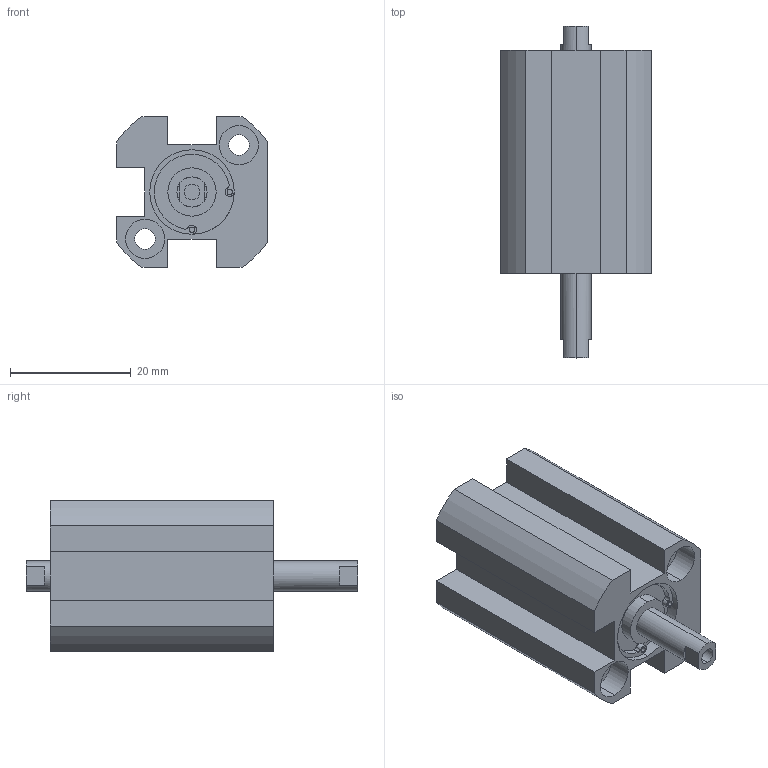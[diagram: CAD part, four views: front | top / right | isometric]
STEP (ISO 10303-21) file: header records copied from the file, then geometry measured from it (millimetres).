
FILE_DESCRIPTION (( 'STEP AP203' ), '1' );
FILE_NAME ('XC#7-10D-10.STEP', '2016-05-23T08:19:08', ( '' ), ( '' ), 'SwSTEP 2.0', 'SolidWorks 2014', '' );
FILE_SCHEMA (( 'CONFIG_CONTROL_DESIGN' ));
Length unit declared in the file: millimetre
Products named in the file (1): XC#7-10D-10
Bounding box: 25 x 55 x 25 mm (x, y, z)
Volume: 16326.5 mm3; surface area: 7242.1 mm2
Topology: 1 solids, 1 shells, 106 faces, 258 edges, 168 vertices
Faces by surface type: cylinder 58, plane 44, cone 4
Entity records: 3217 total; most frequent: DIRECTION 594, CARTESIAN_POINT 529, ORIENTED_EDGE 508, EDGE_CURVE 254, AXIS2_PLACEMENT_3D 233, VERTEX_POINT 168, VECTOR 128, LINE 128
